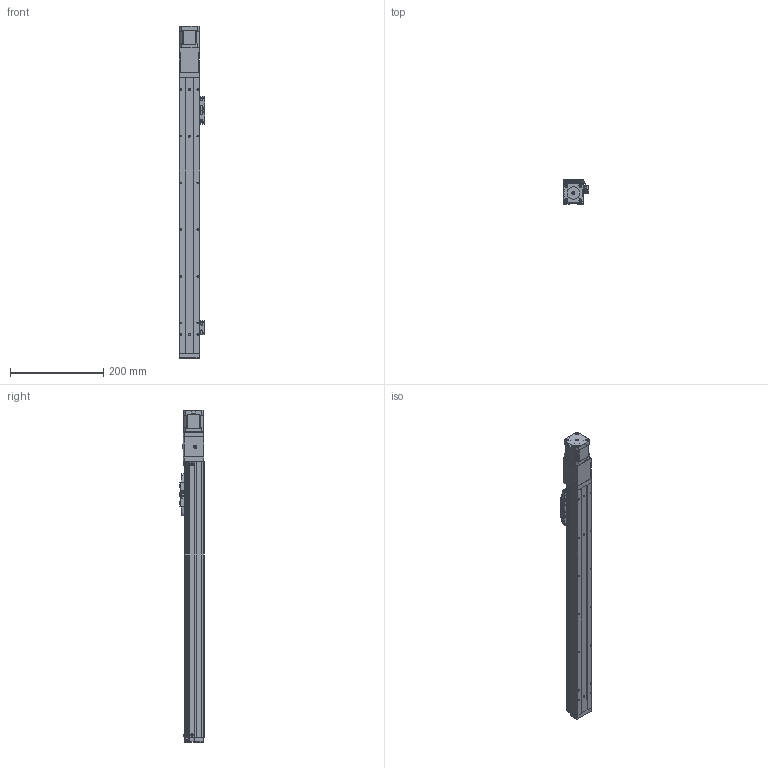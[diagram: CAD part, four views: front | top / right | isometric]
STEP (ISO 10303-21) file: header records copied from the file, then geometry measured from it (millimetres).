
FILE_DESCRIPTION (( 'STEP AP203' ), '1' );
FILE_NAME ('GTH4-450-BC-B42-C4.step', '2023-02-14T00:15:20', ( '微软用户' ), ( '微软中国' ), 'SwSTEP 2.0', 'SolidWorks 2020', '' );
FILE_SCHEMA (( 'CONFIG_CONTROL_DESIGN' ));
Length unit declared in the file: millimetre
Products named in the file (19): BTH50-024; GBT 70.3-M3℅6; BTH40-003; GBT 70.1-M3℅6; BTH40-017; BTH40-006; GBT96.1-2002 3×0.8; BTH40-005-1; BTH-M3X5X6; BTH40-022; 42CM06; GBT70.1-2000 M3×16; GBT 70.1-M2.5×6; GTH4-450-BC-B42-C4; BTH50-028; BTH40-004; BTH50-023; BTH40-013; BTH40-001-50_BTH40-001-450
Assembly tree (49 placements, depth 2):
  GTH4-450-BC-B42-C4
    BTH40-001-50_BTH40-001-450
    BTH40-003
    BTH40-006
    BTH-M3X5X6  x10
    GBT70.1-2000 M3×16  x4
    BTH50-028  x2
    BTH50-023  x3
    BTH50-024  x3
    GBT 70.1-M3℅6  x6
    GBT96.1-2002 3×0.8  x6
    BTH40-022
    GBT 70.1-M2.5×6  x2
    BTH40-004
    BTH40-013
    GBT 70.3-M3℅6  x4
    BTH40-017
    BTH40-005-1
    42CM06
Bounding box: 55.2 x 52 x 711 mm (x, y, z)
Volume: 1085952.4 mm3; surface area: 228568.8 mm2
Topology: 58 solids, 58 shells, 3298 faces, 7706 edges, 4628 vertices
Faces by surface type: cone 1475, plane 1112, cylinder 547, torus 128, bspline 24, sphere 12
Entity records: 75682 total; most frequent: DIRECTION 13493, CARTESIAN_POINT 13229, ORIENTED_EDGE 11874, EDGE_CURVE 5937, AXIS2_PLACEMENT_3D 5119, VERTEX_POINT 3559, LINE 3255, VECTOR 3255
